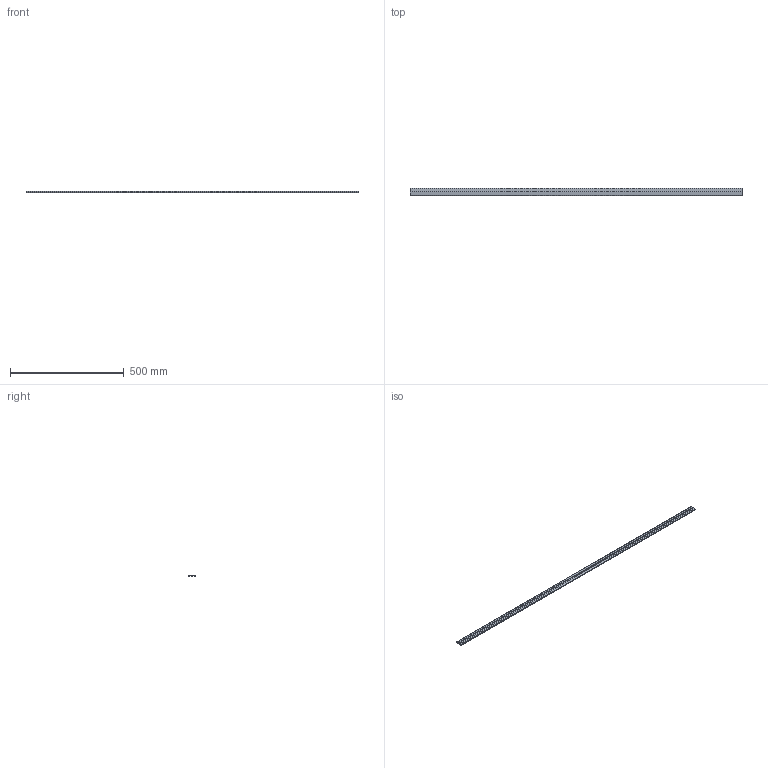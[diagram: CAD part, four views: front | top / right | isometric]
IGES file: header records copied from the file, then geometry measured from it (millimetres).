
Start section: C
Global section: file name: 01V-Q3R-02.igs; native system:  By UGS Corp.; preprocessor: XPlus GENERIC/IGES 3.0; author: Author; organization: Title; date: 20160930.120820; units: inch
Bounding box: 1457.6 x 30.9 x 5.41 mm (x, y, z)
Surface area: 111876.2 mm2 (no closed solid volume)
Topology: 0 solids, 0 shells, 28 faces, 156 edges, 156 vertices
Faces by surface type: bspline 28
